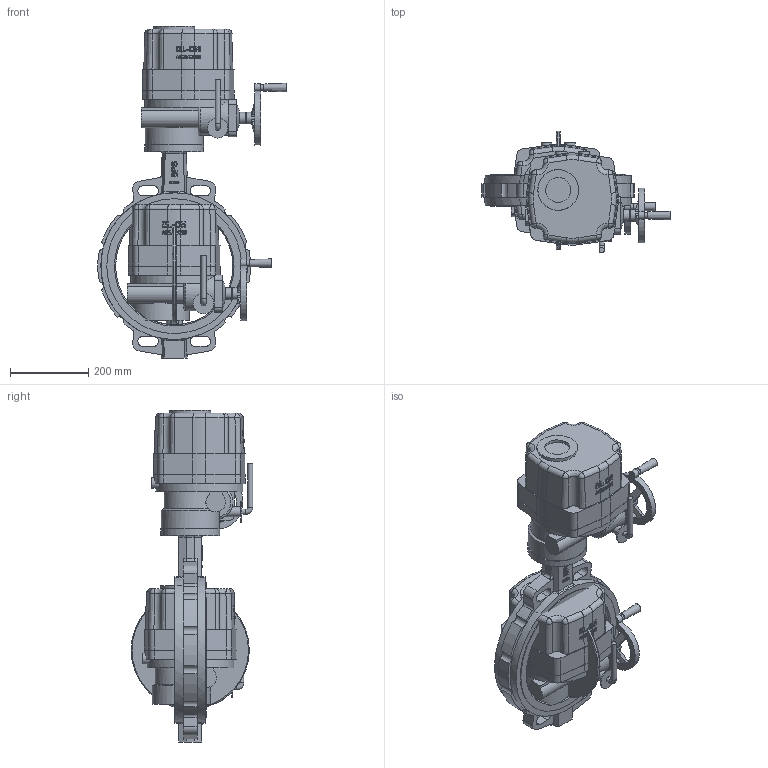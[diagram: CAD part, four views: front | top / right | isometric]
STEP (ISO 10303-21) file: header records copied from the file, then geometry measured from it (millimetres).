
FILE_DESCRIPTION( ( 'Unknown' ), '1' );
FILE_NAME( 'R:/ECCUA/ROOTSI BPS 3D vidinad/Poordklapid Wafer type/Butterfly valve(wafer) with electric actuator BPS/STEP formaat/BPS 2303300E(R) butterfly valve DN300.stp', 'Unknown', ( 'Unknown' ), ( 'Unknown' ), 'PSStep 10.1', 'Unknown', ' ' );
FILE_SCHEMA( ( 'AUTOMOTIVE_DESIGN { 1 0 10303 214 1 1 1 1 }' ) );
Length unit declared in the file: millimetre
Products named in the file (3): Assem1; Butterfly valve wafer type DN300 BPS; BPS 8005300-500 electric actuator DN200-350
Bounding box: 481.03 x 311 x 849 mm (x, y, z)
Volume: 34138678.8 mm3; surface area: 2005273.6 mm2
Topology: 4 solids, 4 shells, 1084 faces, 2830 edges, 1830 vertices
Faces by surface type: plane 410, cylinder 306, bspline 142, cone 96, extrusion 84, torus 30, sphere 16
Full cylindrical faces by diameter (mm): 8.376 x16, 10.106 x16, 13 x12, 15 x2, 18 x2, 25 x2, 27 x4, 30 x4, 35 x2, 52 x2, 64 x2, 104 x2, 106 x2, 134 x2, 148 x2, 150 x2, 300 x2, 345 x4, 375 x4
Entity records: 31763 total; most frequent: CARTESIAN_POINT 15291, ORIENTED_EDGE 2624, DIRECTION 2142, EDGE_CURVE 1312, VERTEX_POINT 892, AXIS2_PLACEMENT_3D 810, EDGE_LOOP 682, FACE_OUTER_BOUND 592
